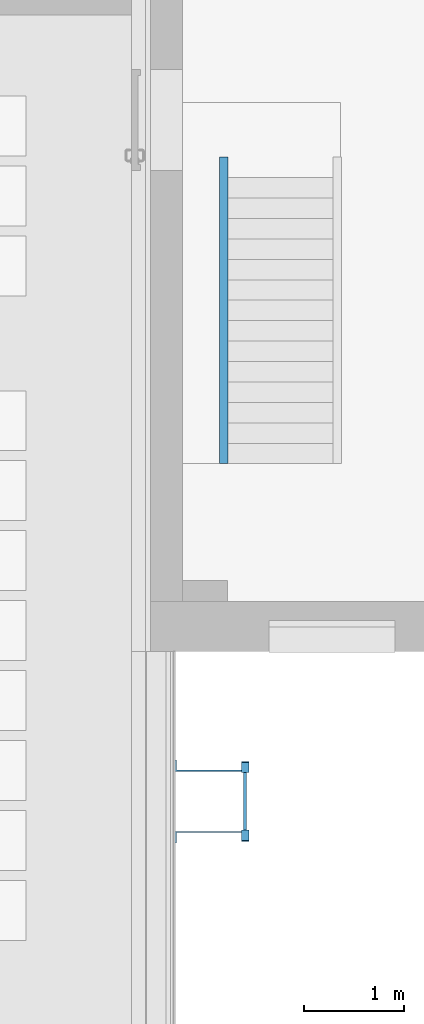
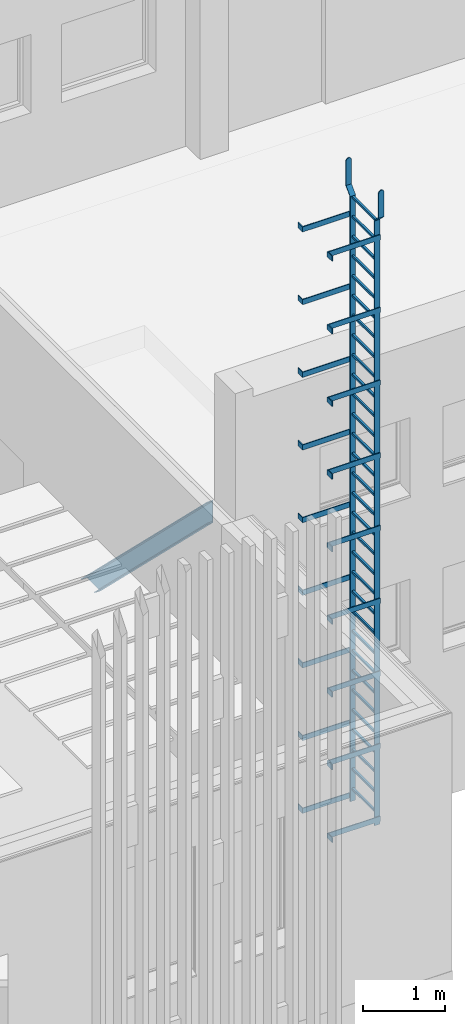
# One storey, part 208 of 301: 1 building element part, 1 discrete accessory, 1 element without a shape of its own.
"""IFC2X3 building model written with IfcOpenShell, lengths in millimetres."""

from ifc_helpers import new_model, entity, si_unit, converted_unit, derived_unit, money_unit, direction, frame, origin_with_axes, place, context, subcontext, project, spatial, faceted_brep, material, type_object, element, aggregate, save


model = new_model("IFC2X3")

# Units and contexts
model_context = context("Model", 3, precision=0.01, world=origin_with_axes(), true_north=direction((0.0, 1.0)))
body_context = subcontext(model_context, "Body", "Model", "MODEL_VIEW")
ifc_project = project(units=[si_unit("LENGTHUNIT", "METRE", prefix="MILLI"), si_unit("AREAUNIT", "SQUARE_METRE"), si_unit("VOLUMEUNIT", "CUBIC_METRE"), converted_unit("PLANEANGLEUNIT", "DEGREE", entity("IfcPlaneAngleMeasure", 0.0174532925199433), si_unit("PLANEANGLEUNIT", "RADIAN"), dimensions=[0, 0, 0, 0, 0, 0, 0]), money_unit("EUR"), converted_unit("TIMEUNIT", "Year", entity("IfcTimeMeasure", 31557600.0), si_unit("TIMEUNIT", "SECOND"), dimensions=[0, 0, 1, 0, 0, 0, 0]), si_unit("MASSUNIT", "GRAM", prefix="KILO"), si_unit("THERMODYNAMICTEMPERATUREUNIT", "DEGREE_CELSIUS"), si_unit("LUMINOUSINTENSITYUNIT", "LUMEN"), si_unit("ENERGYUNIT", "JOULE", prefix="MEGA"), derived_unit("THERMALCONDUCTANCEUNIT", [(si_unit("POWERUNIT", "WATT"), 1), (si_unit("LENGTHUNIT", "METRE"), -1), (si_unit("THERMODYNAMICTEMPERATUREUNIT", "KELVIN"), -1)]), derived_unit("SPECIFICHEATCAPACITYUNIT", [(si_unit("ENERGYUNIT", "JOULE"), 1), (si_unit("MASSUNIT", "GRAM", prefix="KILO"), -1), (si_unit("THERMODYNAMICTEMPERATUREUNIT", "KELVIN"), -1)]), derived_unit("MASSDENSITYUNIT", [(si_unit("MASSUNIT", "GRAM", prefix="KILO"), 1), (si_unit("VOLUMEUNIT", "CUBIC_METRE"), -1)])], contexts=[model_context])

# Site, building, storey
site_placement = place(None, frame((0.0, 0.0, 8650.0), z_axis=(0.0, 0.0, 1.0), x_axis=(1.0, 0.0, 0.0)))
site = spatial("IfcSite", under=ifc_project, at=site_placement, Name="43301:001:0844", CompositionType="ELEMENT")
building_placement = place(site_placement, origin_with_axes())
building = spatial("IfcBuilding", under=site, at=building_placement, Name="Kuressaare Ametikooli tuulikute mehaanikute õppekorpus", CompositionType="ELEMENT")
storey_placement = place(building_placement, origin_with_axes())
storey = spatial("IfcBuildingStorey", under=building, at=storey_placement, Name="1.korrus", CompositionType="ELEMENT", Elevation=0.0)

# Discrete accessory
discrete_accessory_type = type_object("IfcDiscreteAccessoryType", Name="Vertical Ladder 27")
discrete_accessory_placement = place(storey_placement, frame((133461.9464386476, 12015.52507043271, 254.9226562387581), z_axis=(0.0, 0.0, 1.0), x_axis=(0.0, 1.0, 0.0)))
element("IfcDiscreteAccessory", 1, at=discrete_accessory_placement, inside=storey, type_object=discrete_accessory_type, Name="SV püstik", context=body_context, shape_type="Brep", body=[
    faceted_brep([(-312.7, -12.7, 152.4), (-312.7, -738.1, 152.4), (-312.7, -738.1, 228.6), (-312.7, -12.7, 228.6), (-414.3, -12.7, 152.4), (-414.3, 0.0, 152.4), (-300.0, 0.0, 152.4), (-300.0, -738.1, 152.4), (-300.0, -738.1, 228.6), (-300.0, 0.0, 228.6), (-414.3, 0.0, 228.6), (-414.3, -12.7, 228.6)], [[[0, 1, 2, 3]], [[0, 4, 5, 6, 7, 1]], [[1, 7, 8, 2]], [[3, 2, 8, 9, 10, 11]], [[4, 0, 3, 11]], [[5, 4, 11, 10]], [[6, 5, 10, 9]], [[7, 6, 9, 8]]]),
    faceted_brep([(312.7, -12.7, 152.4), (312.7, -12.7, 228.6), (312.7, -738.1, 228.6), (312.7, -738.1, 152.4), (414.3, -12.7, 152.4), (414.3, -12.7, 228.6), (414.3, 0.0, 228.6), (300.0, 0.0, 228.6), (300.0, -738.1, 228.6), (300.0, -738.1, 152.4), (300.0, 0.0, 152.4), (414.3, 0.0, 152.4)], [[[0, 1, 2, 3]], [[4, 5, 1, 0]], [[1, 5, 6, 7, 8, 2]], [[3, 2, 8, 9]], [[0, 3, 9, 10, 11, 4]], [[11, 6, 5, 4]], [[10, 7, 6, 11]], [[9, 8, 7, 10]]]),
    faceted_brep([(-312.7, -12.7, 1228.33337518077), (-312.7, -738.1, 1228.33337518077), (-312.7, -738.1, 1304.53337518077), (-312.7, -12.7, 1304.53337518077), (-414.3, -12.7, 1228.33337518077), (-414.3, 0.0, 1228.33337518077), (-300.0, 0.0, 1228.33337518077), (-300.0, -738.1, 1228.33337518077), (-300.0, -738.1, 1304.53337518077), (-300.0, 0.0, 1304.53337518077), (-414.3, 0.0, 1304.53337518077), (-414.3, -12.7, 1304.53337518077)], [[[0, 1, 2, 3]], [[0, 4, 5, 6, 7, 1]], [[1, 7, 8, 2]], [[3, 2, 8, 9, 10, 11]], [[4, 0, 3, 11]], [[5, 4, 11, 10]], [[6, 5, 10, 9]], [[7, 6, 9, 8]]]),
    faceted_brep([(312.7, -12.7, 1228.33337518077), (312.7, -12.7, 1304.53337518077), (312.7, -738.1, 1304.53337518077), (312.7, -738.1, 1228.33337518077), (414.3, -12.7, 1228.33337518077), (414.3, -12.7, 1304.53337518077), (414.3, 0.0, 1304.53337518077), (300.0, 0.0, 1304.53337518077), (300.0, -738.1, 1304.53337518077), (300.0, -738.1, 1228.33337518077), (300.0, 0.0, 1228.33337518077), (414.3, 0.0, 1228.33337518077)], [[[0, 1, 2, 3]], [[4, 5, 1, 0]], [[1, 5, 6, 7, 8, 2]], [[3, 2, 8, 9]], [[0, 3, 9, 10, 11, 4]], [[11, 6, 5, 4]], [[10, 7, 6, 11]], [[9, 8, 7, 10]]]),
    faceted_brep([(-312.7, -12.7, 2304.26675036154), (-312.7, -738.1, 2304.26675036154), (-312.7, -738.1, 2380.46675036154), (-312.7, -12.7, 2380.46675036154), (-414.3, -12.7, 2304.26675036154), (-414.3, 0.0, 2304.26675036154), (-300.0, 0.0, 2304.26675036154), (-300.0, -738.1, 2304.26675036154), (-300.0, -738.1, 2380.46675036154), (-300.0, 0.0, 2380.46675036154), (-414.3, 0.0, 2380.46675036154), (-414.3, -12.7, 2380.46675036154)], [[[0, 1, 2, 3]], [[0, 4, 5, 6, 7, 1]], [[1, 7, 8, 2]], [[3, 2, 8, 9, 10, 11]], [[4, 0, 3, 11]], [[5, 4, 11, 10]], [[6, 5, 10, 9]], [[7, 6, 9, 8]]]),
    faceted_brep([(312.7, -12.7, 2304.26675036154), (312.7, -12.7, 2380.46675036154), (312.7, -738.1, 2380.46675036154), (312.7, -738.1, 2304.26675036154), (414.3, -12.7, 2304.26675036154), (414.3, -12.7, 2380.46675036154), (414.3, 0.0, 2380.46675036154), (300.0, 0.0, 2380.46675036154), (300.0, -738.1, 2380.46675036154), (300.0, -738.1, 2304.26675036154), (300.0, 0.0, 2304.26675036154), (414.3, 0.0, 2304.26675036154)], [[[0, 1, 2, 3]], [[4, 5, 1, 0]], [[1, 5, 6, 7, 8, 2]], [[3, 2, 8, 9]], [[0, 3, 9, 10, 11, 4]], [[11, 6, 5, 4]], [[10, 7, 6, 11]], [[9, 8, 7, 10]]]),
    faceted_brep([(-312.7, -12.7, 3380.20012554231), (-312.7, -738.1, 3380.20012554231), (-312.7, -738.1, 3456.40012554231), (-312.7, -12.7, 3456.40012554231), (-414.3, -12.7, 3380.20012554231), (-414.3, 0.0, 3380.20012554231), (-300.0, 0.0, 3380.20012554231), (-300.0, -738.1, 3380.20012554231), (-300.0, -738.1, 3456.40012554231), (-300.0, 0.0, 3456.40012554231), (-414.3, 0.0, 3456.40012554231), (-414.3, -12.7, 3456.40012554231)], [[[0, 1, 2, 3]], [[0, 4, 5, 6, 7, 1]], [[1, 7, 8, 2]], [[3, 2, 8, 9, 10, 11]], [[4, 0, 3, 11]], [[5, 4, 11, 10]], [[6, 5, 10, 9]], [[7, 6, 9, 8]]]),
    faceted_brep([(312.7, -12.7, 3380.20012554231), (312.7, -12.7, 3456.40012554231), (312.7, -738.1, 3456.40012554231), (312.7, -738.1, 3380.20012554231), (414.3, -12.7, 3380.20012554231), (414.3, -12.7, 3456.40012554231), (414.3, 0.0, 3456.40012554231), (300.0, 0.0, 3456.40012554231), (300.0, -738.1, 3456.40012554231), (300.0, -738.1, 3380.20012554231), (300.0, 0.0, 3380.20012554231), (414.3, 0.0, 3380.20012554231)], [[[0, 1, 2, 3]], [[4, 5, 1, 0]], [[1, 5, 6, 7, 8, 2]], [[3, 2, 8, 9]], [[0, 3, 9, 10, 11, 4]], [[11, 6, 5, 4]], [[10, 7, 6, 11]], [[9, 8, 7, 10]]]),
    faceted_brep([(-312.7, -12.7, 4456.13350072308), (-312.7, -738.1, 4456.13350072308), (-312.7, -738.1, 4532.33350072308), (-312.7, -12.7, 4532.33350072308), (-414.3, -12.7, 4456.13350072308), (-414.3, 0.0, 4456.13350072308), (-300.0, 0.0, 4456.13350072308), (-300.0, -738.1, 4456.13350072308), (-300.0, -738.1, 4532.33350072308), (-300.0, 0.0, 4532.33350072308), (-414.3, 0.0, 4532.33350072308), (-414.3, -12.7, 4532.33350072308)], [[[0, 1, 2, 3]], [[0, 4, 5, 6, 7, 1]], [[1, 7, 8, 2]], [[3, 2, 8, 9, 10, 11]], [[4, 0, 3, 11]], [[5, 4, 11, 10]], [[6, 5, 10, 9]], [[7, 6, 9, 8]]]),
    faceted_brep([(312.7, -12.7, 4456.13350072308), (312.7, -12.7, 4532.33350072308), (312.7, -738.1, 4532.33350072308), (312.7, -738.1, 4456.13350072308), (414.3, -12.7, 4456.13350072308), (414.3, -12.7, 4532.33350072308), (414.3, 0.0, 4532.33350072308), (300.0, 0.0, 4532.33350072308), (300.0, -738.1, 4532.33350072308), (300.0, -738.1, 4456.13350072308), (300.0, 0.0, 4456.13350072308), (414.3, 0.0, 4456.13350072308)], [[[0, 1, 2, 3]], [[4, 5, 1, 0]], [[1, 5, 6, 7, 8, 2]], [[3, 2, 8, 9]], [[0, 3, 9, 10, 11, 4]], [[11, 6, 5, 4]], [[10, 7, 6, 11]], [[9, 8, 7, 10]]]),
    faceted_brep([(-312.7, -12.7, 5532.06687590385), (-312.7, -738.1, 5532.06687590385), (-312.7, -738.1, 5608.266875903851), (-312.7, -12.7, 5608.266875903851), (-414.3, -12.7, 5532.06687590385), (-414.3, 0.0, 5532.06687590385), (-300.0, 0.0, 5532.06687590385), (-300.0, -738.1, 5532.06687590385), (-300.0, -738.1, 5608.266875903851), (-300.0, 0.0, 5608.266875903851), (-414.3, 0.0, 5608.266875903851), (-414.3, -12.7, 5608.266875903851)], [[[0, 1, 2, 3]], [[0, 4, 5, 6, 7, 1]], [[1, 7, 8, 2]], [[3, 2, 8, 9, 10, 11]], [[4, 0, 3, 11]], [[5, 4, 11, 10]], [[6, 5, 10, 9]], [[7, 6, 9, 8]]]),
    faceted_brep([(312.7, -12.7, 5532.06687590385), (312.7, -12.7, 5608.266875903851), (312.7, -738.1, 5608.266875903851), (312.7, -738.1, 5532.06687590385), (414.3, -12.7, 5532.06687590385), (414.3, -12.7, 5608.266875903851), (414.3, 0.0, 5608.266875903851), (300.0, 0.0, 5608.266875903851), (300.0, -738.1, 5608.266875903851), (300.0, -738.1, 5532.06687590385), (300.0, 0.0, 5532.06687590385), (414.3, 0.0, 5532.06687590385)], [[[0, 1, 2, 3]], [[4, 5, 1, 0]], [[1, 5, 6, 7, 8, 2]], [[3, 2, 8, 9]], [[0, 3, 9, 10, 11, 4]], [[11, 6, 5, 4]], [[10, 7, 6, 11]], [[9, 8, 7, 10]]]),
    faceted_brep([(-312.7, -12.7, 6608.000251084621), (-312.7, -738.1, 6608.000251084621), (-312.7, -738.1, 6684.200251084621), (-312.7, -12.7, 6684.200251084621), (-414.3, -12.7, 6608.000251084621), (-414.3, 0.0, 6608.000251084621), (-300.0, 0.0, 6608.000251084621), (-300.0, -738.1, 6608.000251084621), (-300.0, -738.1, 6684.200251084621), (-300.0, 0.0, 6684.200251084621), (-414.3, 0.0, 6684.200251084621), (-414.3, -12.7, 6684.200251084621)], [[[0, 1, 2, 3]], [[0, 4, 5, 6, 7, 1]], [[1, 7, 8, 2]], [[3, 2, 8, 9, 10, 11]], [[4, 0, 3, 11]], [[5, 4, 11, 10]], [[6, 5, 10, 9]], [[7, 6, 9, 8]]]),
    faceted_brep([(312.7, -12.7, 6608.000251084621), (312.7, -12.7, 6684.200251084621), (312.7, -738.1, 6684.200251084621), (312.7, -738.1, 6608.000251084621), (414.3, -12.7, 6608.000251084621), (414.3, -12.7, 6684.200251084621), (414.3, 0.0, 6684.200251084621), (300.0, 0.0, 6684.200251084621), (300.0, -738.1, 6684.200251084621), (300.0, -738.1, 6608.000251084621), (300.0, 0.0, 6608.000251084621), (414.3, 0.0, 6608.000251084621)], [[[0, 1, 2, 3]], [[4, 5, 1, 0]], [[1, 5, 6, 7, 8, 2]], [[3, 2, 8, 9]], [[0, 3, 9, 10, 11, 4]], [[11, 6, 5, 4]], [[10, 7, 6, 11]], [[9, 8, 7, 10]]]),
    faceted_brep([(-312.7, -12.7, 7683.933626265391), (-312.7, -738.1, 7683.933626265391), (-312.7, -738.1, 7760.13362626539), (-312.7, -12.7, 7760.13362626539), (-414.3, -12.7, 7683.933626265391), (-414.3, 0.0, 7683.933626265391), (-300.0, 0.0, 7683.933626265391), (-300.0, -738.1, 7683.933626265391), (-300.0, -738.1, 7760.13362626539), (-300.0, 0.0, 7760.13362626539), (-414.3, 0.0, 7760.13362626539), (-414.3, -12.7, 7760.13362626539)], [[[0, 1, 2, 3]], [[0, 4, 5, 6, 7, 1]], [[1, 7, 8, 2]], [[3, 2, 8, 9, 10, 11]], [[4, 0, 3, 11]], [[5, 4, 11, 10]], [[6, 5, 10, 9]], [[7, 6, 9, 8]]]),
    faceted_brep([(312.7, -12.7, 7683.933626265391), (312.7, -12.7, 7760.13362626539), (312.7, -738.1, 7760.13362626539), (312.7, -738.1, 7683.933626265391), (414.3, -12.7, 7683.933626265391), (414.3, -12.7, 7760.13362626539), (414.3, 0.0, 7760.13362626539), (300.0, 0.0, 7760.13362626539), (300.0, -738.1, 7760.13362626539), (300.0, -738.1, 7683.933626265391), (300.0, 0.0, 7683.933626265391), (414.3, 0.0, 7683.933626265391)], [[[0, 1, 2, 3]], [[4, 5, 1, 0]], [[1, 5, 6, 7, 8, 2]], [[3, 2, 8, 9]], [[0, 3, 9, 10, 11, 4]], [[11, 6, 5, 4]], [[10, 7, 6, 11]], [[9, 8, 7, 10]]]),
    faceted_brep([(-312.7, -12.7, 8759.86700144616), (-312.7, -738.1, 8759.86700144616), (-312.7, -738.1, 8836.067001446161), (-312.7, -12.7, 8836.067001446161), (-414.3, -12.7, 8759.86700144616), (-414.3, 0.0, 8759.86700144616), (-300.0, 0.0, 8759.86700144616), (-300.0, -738.1, 8759.86700144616), (-300.0, -738.1, 8836.067001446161), (-300.0, 0.0, 8836.067001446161), (-414.3, 0.0, 8836.067001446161), (-414.3, -12.7, 8836.067001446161)], [[[0, 1, 2, 3]], [[0, 4, 5, 6, 7, 1]], [[1, 7, 8, 2]], [[3, 2, 8, 9, 10, 11]], [[4, 0, 3, 11]], [[5, 4, 11, 10]], [[6, 5, 10, 9]], [[7, 6, 9, 8]]]),
    faceted_brep([(312.7, -12.7, 8759.86700144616), (312.7, -12.7, 8836.067001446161), (312.7, -738.1, 8836.067001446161), (312.7, -738.1, 8759.86700144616), (414.3, -12.7, 8759.86700144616), (414.3, -12.7, 8836.067001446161), (414.3, 0.0, 8836.067001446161), (300.0, 0.0, 8836.067001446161), (300.0, -738.1, 8836.067001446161), (300.0, -738.1, 8759.86700144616), (300.0, 0.0, 8759.86700144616), (414.3, 0.0, 8759.86700144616)], [[[0, 1, 2, 3]], [[4, 5, 1, 0]], [[1, 5, 6, 7, 8, 2]], [[3, 2, 8, 9]], [[0, 3, 9, 10, 11, 4]], [[11, 6, 5, 4]], [[10, 7, 6, 11]], [[9, 8, 7, 10]]]),
    faceted_brep([(-287.3, -738.1, 101.6), (-287.3, -661.9, 101.6), (-287.3, -661.9, 9061.467001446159), (-287.3, -738.1, 9061.467001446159), (-300.0, -738.1, 101.6), (-300.0, -661.9, 101.6), (-300.0, -661.9, 9056.206489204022), (-401.6, -661.9, 9157.80648920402), (-401.6, -661.9, 9523.367001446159), (-388.9, -661.9, 9523.367001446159), (-388.9, -661.9, 9163.06700144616), (-388.9, -738.1, 9163.06700144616), (-388.9, -738.1, 9523.367001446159), (-401.6, -738.1, 9523.367001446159), (-401.6, -738.1, 9157.80648920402), (-300.0, -738.1, 9056.206489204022)], [[[0, 1, 2, 3]], [[0, 4, 5, 1]], [[1, 5, 6, 7, 8, 9, 10, 2]], [[3, 2, 10, 11]], [[4, 0, 3, 11, 12, 13, 14, 15]], [[5, 4, 15, 6]], [[6, 15, 14, 7]], [[7, 14, 13, 8]], [[12, 9, 8, 13]], [[11, 10, 9, 12]]]),
    faceted_brep([(-401.6, -661.9, 9523.367001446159), (-401.6, -664.8001898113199, 9537.94724021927), (-388.9, -664.8001898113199, 9537.94724021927), (-388.9, -661.9, 9523.367001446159), (-401.6, -738.1, 9523.367001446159), (-401.6, -735.19981018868, 9537.94724021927), (-401.6, -726.9407683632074, 9550.307769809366), (-401.6, -714.58023877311, 9558.566811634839), (-401.6, -700.0, 9561.467001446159), (-401.6, -685.41976122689, 9558.566811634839), (-401.6, -673.0592316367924, 9550.307769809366), (-388.9, -673.0592316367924, 9550.307769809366), (-388.9, -685.41976122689, 9558.566811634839), (-388.9, -700.0, 9561.467001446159), (-388.9, -714.58023877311, 9558.566811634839), (-388.9, -726.9407683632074, 9550.307769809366), (-388.9, -735.19981018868, 9537.94724021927), (-388.9, -738.1, 9523.367001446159)], [[[0, 1, 2, 3]], [[0, 4, 5, 6, 7, 8, 9, 10, 1]], [[1, 10, 11, 2]], [[3, 2, 11, 12, 13, 14, 15, 16, 17]], [[4, 0, 3, 17]], [[5, 4, 17, 16]], [[6, 5, 16, 15]], [[7, 6, 15, 14]], [[8, 7, 14, 13]], [[9, 8, 13, 12]], [[10, 9, 12, 11]]]),
    faceted_brep([(287.3, -738.1, 101.6), (287.3, -738.1, 9061.467001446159), (287.3, -661.9, 9061.467001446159), (287.3, -661.9, 101.6), (300.0, -738.1, 101.6), (300.0, -738.1, 9056.206489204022), (401.6, -738.1, 9157.80648920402), (401.6, -738.1, 9523.367001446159), (388.9, -738.1, 9523.367001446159), (388.9, -738.1, 9163.06700144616), (388.9, -661.9, 9163.06700144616), (388.9, -661.9, 9523.367001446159), (401.6, -661.9, 9523.367001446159), (401.6, -661.9, 9157.80648920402), (300.0, -661.9, 9056.206489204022), (300.0, -661.9, 101.6)], [[[0, 1, 2, 3]], [[4, 5, 6, 7, 8, 9, 1, 0]], [[1, 9, 10, 2]], [[3, 2, 10, 11, 12, 13, 14, 15]], [[0, 3, 15, 4]], [[15, 14, 5, 4]], [[14, 13, 6, 5]], [[13, 12, 7, 6]], [[8, 7, 12, 11]], [[9, 8, 11, 10]]]),
    faceted_brep([(401.6, -661.9, 9523.367001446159), (388.9, -661.9, 9523.367001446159), (388.9, -664.8001898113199, 9537.94724021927), (401.6, -664.8001898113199, 9537.94724021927), (401.6, -738.1, 9523.367001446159), (388.9, -738.1, 9523.367001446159), (388.9, -735.19981018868, 9537.94724021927), (388.9, -726.9407683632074, 9550.307769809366), (388.9, -714.58023877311, 9558.566811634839), (388.9, -700.0, 9561.467001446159), (388.9, -685.41976122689, 9558.566811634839), (388.9, -673.0592316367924, 9550.307769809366), (401.6, -673.0592316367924, 9550.307769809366), (401.6, -685.41976122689, 9558.566811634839), (401.6, -700.0, 9561.467001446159), (401.6, -714.58023877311, 9558.566811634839), (401.6, -726.9407683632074, 9550.307769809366), (401.6, -735.19981018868, 9537.94724021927)], [[[0, 1, 2, 3]], [[4, 5, 1, 0]], [[1, 5, 6, 7, 8, 9, 10, 11, 2]], [[3, 2, 11, 12]], [[0, 3, 12, 13, 14, 15, 16, 17, 4]], [[17, 6, 5, 4]], [[16, 7, 6, 17]], [[15, 8, 7, 16]], [[14, 9, 8, 15]], [[13, 10, 9, 14]], [[12, 11, 10, 13]]]),
    faceted_brep([(287.3, -715.0, 270.0), (-287.3, -715.0, 270.0), (-287.3, -684.9999999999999, 270.0), (287.3, -684.9999999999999, 270.0), (287.3, -715.0, 300.0000000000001), (-287.3, -715.0, 300.0000000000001), (-287.3, -684.9999999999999, 300.0000000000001), (287.3, -684.9999999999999, 300.0000000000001)], [[[0, 1, 2, 3]], [[1, 0, 4, 5]], [[2, 1, 5, 6]], [[3, 2, 6, 7]], [[0, 3, 7, 4]], [[5, 4, 7, 6]]]),
    faceted_brep([(287.3, -715.0, 562.0489000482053), (-287.3, -715.0, 562.0489000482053), (-287.3, -684.9999999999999, 562.0489000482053), (287.3, -684.9999999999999, 562.0489000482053), (287.3, -715.0, 592.0489000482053), (-287.3, -715.0, 592.0489000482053), (-287.3, -684.9999999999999, 592.0489000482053), (287.3, -684.9999999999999, 592.0489000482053)], [[[0, 1, 2, 3]], [[1, 0, 4, 5]], [[2, 1, 5, 6]], [[3, 2, 6, 7]], [[0, 3, 7, 4]], [[5, 4, 7, 6]]]),
    faceted_brep([(287.3, -715.0, 854.0978000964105), (-287.3, -715.0, 854.0978000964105), (-287.3, -684.9999999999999, 854.0978000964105), (287.3, -684.9999999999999, 854.0978000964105), (287.3, -715.0, 884.0978000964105), (-287.3, -715.0, 884.0978000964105), (-287.3, -684.9999999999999, 884.0978000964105), (287.3, -684.9999999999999, 884.0978000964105)], [[[0, 1, 2, 3]], [[1, 0, 4, 5]], [[2, 1, 5, 6]], [[3, 2, 6, 7]], [[0, 3, 7, 4]], [[5, 4, 7, 6]]]),
    faceted_brep([(287.3, -715.0, 1146.146700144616), (-287.3, -715.0, 1146.146700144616), (-287.3, -684.9999999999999, 1146.146700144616), (287.3, -684.9999999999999, 1146.146700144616), (287.3, -715.0, 1176.146700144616), (-287.3, -715.0, 1176.146700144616), (-287.3, -684.9999999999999, 1176.146700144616), (287.3, -684.9999999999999, 1176.146700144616)], [[[0, 1, 2, 3]], [[1, 0, 4, 5]], [[2, 1, 5, 6]], [[3, 2, 6, 7]], [[0, 3, 7, 4]], [[5, 4, 7, 6]]]),
    faceted_brep([(287.3, -715.0, 1438.195600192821), (-287.3, -715.0, 1438.195600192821), (-287.3, -684.9999999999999, 1438.195600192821), (287.3, -684.9999999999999, 1438.195600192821), (287.3, -715.0, 1468.195600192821), (-287.3, -715.0, 1468.195600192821), (-287.3, -684.9999999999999, 1468.195600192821), (287.3, -684.9999999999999, 1468.195600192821)], [[[0, 1, 2, 3]], [[1, 0, 4, 5]], [[2, 1, 5, 6]], [[3, 2, 6, 7]], [[0, 3, 7, 4]], [[5, 4, 7, 6]]]),
    faceted_brep([(287.3, -715.0, 1730.244500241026), (-287.3, -715.0, 1730.244500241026), (-287.3, -684.9999999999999, 1730.244500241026), (287.3, -684.9999999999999, 1730.244500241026), (287.3, -715.0, 1760.244500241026), (-287.3, -715.0, 1760.244500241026), (-287.3, -684.9999999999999, 1760.244500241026), (287.3, -684.9999999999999, 1760.244500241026)], [[[0, 1, 2, 3]], [[1, 0, 4, 5]], [[2, 1, 5, 6]], [[3, 2, 6, 7]], [[0, 3, 7, 4]], [[5, 4, 7, 6]]]),
    faceted_brep([(287.3, -715.0, 2022.293400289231), (-287.3, -715.0, 2022.293400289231), (-287.3, -684.9999999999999, 2022.293400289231), (287.3, -684.9999999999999, 2022.293400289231), (287.3, -715.0, 2052.293400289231), (-287.3, -715.0, 2052.293400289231), (-287.3, -684.9999999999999, 2052.293400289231), (287.3, -684.9999999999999, 2052.293400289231)], [[[0, 1, 2, 3]], [[1, 0, 4, 5]], [[2, 1, 5, 6]], [[3, 2, 6, 7]], [[0, 3, 7, 4]], [[5, 4, 7, 6]]]),
    faceted_brep([(287.3, -715.0, 2314.342300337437), (-287.3, -715.0, 2314.342300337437), (-287.3, -684.9999999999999, 2314.342300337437), (287.3, -684.9999999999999, 2314.342300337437), (287.3, -715.0, 2344.342300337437), (-287.3, -715.0, 2344.342300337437), (-287.3, -684.9999999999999, 2344.342300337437), (287.3, -684.9999999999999, 2344.342300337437)], [[[0, 1, 2, 3]], [[1, 0, 4, 5]], [[2, 1, 5, 6]], [[3, 2, 6, 7]], [[0, 3, 7, 4]], [[5, 4, 7, 6]]]),
    faceted_brep([(287.3, -715.0, 2606.391200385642), (-287.3, -715.0, 2606.391200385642), (-287.3, -684.9999999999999, 2606.391200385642), (287.3, -684.9999999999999, 2606.391200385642), (287.3, -715.0, 2636.391200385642), (-287.3, -715.0, 2636.391200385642), (-287.3, -684.9999999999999, 2636.391200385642), (287.3, -684.9999999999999, 2636.391200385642)], [[[0, 1, 2, 3]], [[1, 0, 4, 5]], [[2, 1, 5, 6]], [[3, 2, 6, 7]], [[0, 3, 7, 4]], [[5, 4, 7, 6]]]),
    faceted_brep([(287.3, -715.0, 2898.440100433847), (-287.3, -715.0, 2898.440100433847), (-287.3, -684.9999999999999, 2898.440100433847), (287.3, -684.9999999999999, 2898.440100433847), (287.3, -715.0, 2928.440100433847), (-287.3, -715.0, 2928.440100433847), (-287.3, -684.9999999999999, 2928.440100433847), (287.3, -684.9999999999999, 2928.440100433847)], [[[0, 1, 2, 3]], [[1, 0, 4, 5]], [[2, 1, 5, 6]], [[3, 2, 6, 7]], [[0, 3, 7, 4]], [[5, 4, 7, 6]]]),
    faceted_brep([(287.3, -715.0, 3190.489000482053), (-287.3, -715.0, 3190.489000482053), (-287.3, -684.9999999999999, 3190.489000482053), (287.3, -684.9999999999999, 3190.489000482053), (287.3, -715.0, 3220.489000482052), (-287.3, -715.0, 3220.489000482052), (-287.3, -684.9999999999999, 3220.489000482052), (287.3, -684.9999999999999, 3220.489000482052)], [[[0, 1, 2, 3]], [[1, 0, 4, 5]], [[2, 1, 5, 6]], [[3, 2, 6, 7]], [[0, 3, 7, 4]], [[5, 4, 7, 6]]]),
    faceted_brep([(287.3, -715.0, 3482.537900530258), (-287.3, -715.0, 3482.537900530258), (-287.3, -684.9999999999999, 3482.537900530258), (287.3, -684.9999999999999, 3482.537900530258), (287.3, -715.0, 3512.537900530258), (-287.3, -715.0, 3512.537900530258), (-287.3, -684.9999999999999, 3512.537900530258), (287.3, -684.9999999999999, 3512.537900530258)], [[[0, 1, 2, 3]], [[1, 0, 4, 5]], [[2, 1, 5, 6]], [[3, 2, 6, 7]], [[0, 3, 7, 4]], [[5, 4, 7, 6]]]),
    faceted_brep([(287.3, -715.0, 3774.586800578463), (-287.3, -715.0, 3774.586800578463), (-287.3, -684.9999999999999, 3774.586800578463), (287.3, -684.9999999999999, 3774.586800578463), (287.3, -715.0, 3804.586800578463), (-287.3, -715.0, 3804.586800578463), (-287.3, -684.9999999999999, 3804.586800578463), (287.3, -684.9999999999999, 3804.586800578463)], [[[0, 1, 2, 3]], [[1, 0, 4, 5]], [[2, 1, 5, 6]], [[3, 2, 6, 7]], [[0, 3, 7, 4]], [[5, 4, 7, 6]]]),
    faceted_brep([(287.3, -715.0, 4066.635700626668), (-287.3, -715.0, 4066.635700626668), (-287.3, -684.9999999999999, 4066.635700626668), (287.3, -684.9999999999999, 4066.635700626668), (287.3, -715.0, 4096.635700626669), (-287.3, -715.0, 4096.635700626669), (-287.3, -684.9999999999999, 4096.635700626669), (287.3, -684.9999999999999, 4096.635700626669)], [[[0, 1, 2, 3]], [[1, 0, 4, 5]], [[2, 1, 5, 6]], [[3, 2, 6, 7]], [[0, 3, 7, 4]], [[5, 4, 7, 6]]]),
    faceted_brep([(287.3, -715.0, 4358.684600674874), (-287.3, -715.0, 4358.684600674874), (-287.3, -684.9999999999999, 4358.684600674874), (287.3, -684.9999999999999, 4358.684600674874), (287.3, -715.0, 4388.684600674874), (-287.3, -715.0, 4388.684600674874), (-287.3, -684.9999999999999, 4388.684600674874), (287.3, -684.9999999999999, 4388.684600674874)], [[[0, 1, 2, 3]], [[1, 0, 4, 5]], [[2, 1, 5, 6]], [[3, 2, 6, 7]], [[0, 3, 7, 4]], [[5, 4, 7, 6]]]),
    faceted_brep([(287.3, -715.0, 4650.733500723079), (-287.3, -715.0, 4650.733500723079), (-287.3, -684.9999999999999, 4650.733500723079), (287.3, -684.9999999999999, 4650.733500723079), (287.3, -715.0, 4680.733500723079), (-287.3, -715.0, 4680.733500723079), (-287.3, -684.9999999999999, 4680.733500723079), (287.3, -684.9999999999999, 4680.733500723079)], [[[0, 1, 2, 3]], [[1, 0, 4, 5]], [[2, 1, 5, 6]], [[3, 2, 6, 7]], [[0, 3, 7, 4]], [[5, 4, 7, 6]]]),
    faceted_brep([(287.3, -715.0, 4942.782400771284), (-287.3, -715.0, 4942.782400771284), (-287.3, -684.9999999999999, 4942.782400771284), (287.3, -684.9999999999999, 4942.782400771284), (287.3, -715.0, 4972.782400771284), (-287.3, -715.0, 4972.782400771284), (-287.3, -684.9999999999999, 4972.782400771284), (287.3, -684.9999999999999, 4972.782400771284)], [[[0, 1, 2, 3]], [[1, 0, 4, 5]], [[2, 1, 5, 6]], [[3, 2, 6, 7]], [[0, 3, 7, 4]], [[5, 4, 7, 6]]]),
    faceted_brep([(287.3, -715.0, 5234.83130081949), (-287.3, -715.0, 5234.83130081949), (-287.3, -684.9999999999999, 5234.83130081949), (287.3, -684.9999999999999, 5234.83130081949), (287.3, -715.0, 5264.83130081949), (-287.3, -715.0, 5264.83130081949), (-287.3, -684.9999999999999, 5264.83130081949), (287.3, -684.9999999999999, 5264.83130081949)], [[[0, 1, 2, 3]], [[1, 0, 4, 5]], [[2, 1, 5, 6]], [[3, 2, 6, 7]], [[0, 3, 7, 4]], [[5, 4, 7, 6]]]),
    faceted_brep([(287.3, -715.0, 5526.880200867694), (-287.3, -715.0, 5526.880200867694), (-287.3, -684.9999999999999, 5526.880200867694), (287.3, -684.9999999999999, 5526.880200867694), (287.3, -715.0, 5556.880200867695), (-287.3, -715.0, 5556.880200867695), (-287.3, -684.9999999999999, 5556.880200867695), (287.3, -684.9999999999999, 5556.880200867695)], [[[0, 1, 2, 3]], [[1, 0, 4, 5]], [[2, 1, 5, 6]], [[3, 2, 6, 7]], [[0, 3, 7, 4]], [[5, 4, 7, 6]]]),
    faceted_brep([(287.3, -715.0, 5818.929100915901), (-287.3, -715.0, 5818.929100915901), (-287.3, -684.9999999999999, 5818.929100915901), (287.3, -684.9999999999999, 5818.929100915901), (287.3, -715.0, 5848.929100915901), (-287.3, -715.0, 5848.929100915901), (-287.3, -684.9999999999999, 5848.929100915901), (287.3, -684.9999999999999, 5848.929100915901)], [[[0, 1, 2, 3]], [[1, 0, 4, 5]], [[2, 1, 5, 6]], [[3, 2, 6, 7]], [[0, 3, 7, 4]], [[5, 4, 7, 6]]]),
    faceted_brep([(287.3, -715.0, 6110.978000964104), (-287.3, -715.0, 6110.978000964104), (-287.3, -684.9999999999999, 6110.978000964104), (287.3, -684.9999999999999, 6110.978000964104), (287.3, -715.0, 6140.978000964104), (-287.3, -715.0, 6140.978000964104), (-287.3, -684.9999999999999, 6140.978000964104), (287.3, -684.9999999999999, 6140.978000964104)], [[[0, 1, 2, 3]], [[1, 0, 4, 5]], [[2, 1, 5, 6]], [[3, 2, 6, 7]], [[0, 3, 7, 4]], [[5, 4, 7, 6]]]),
    faceted_brep([(287.3, -715.0, 6403.02690101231), (-287.3, -715.0, 6403.02690101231), (-287.3, -684.9999999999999, 6403.02690101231), (287.3, -684.9999999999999, 6403.02690101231), (287.3, -715.0, 6433.026901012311), (-287.3, -715.0, 6433.026901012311), (-287.3, -684.9999999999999, 6433.026901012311), (287.3, -684.9999999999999, 6433.026901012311)], [[[0, 1, 2, 3]], [[1, 0, 4, 5]], [[2, 1, 5, 6]], [[3, 2, 6, 7]], [[0, 3, 7, 4]], [[5, 4, 7, 6]]]),
    faceted_brep([(287.3, -715.0, 6695.075801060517), (-287.3, -715.0, 6695.075801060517), (-287.3, -684.9999999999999, 6695.075801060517), (287.3, -684.9999999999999, 6695.075801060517), (287.3, -715.0, 6725.075801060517), (-287.3, -715.0, 6725.075801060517), (-287.3, -684.9999999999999, 6725.075801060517), (287.3, -684.9999999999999, 6725.075801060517)], [[[0, 1, 2, 3]], [[1, 0, 4, 5]], [[2, 1, 5, 6]], [[3, 2, 6, 7]], [[0, 3, 7, 4]], [[5, 4, 7, 6]]]),
    faceted_brep([(287.3, -715.0, 6987.124701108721), (-287.3, -715.0, 6987.124701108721), (-287.3, -684.9999999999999, 6987.124701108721), (287.3, -684.9999999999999, 6987.124701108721), (287.3, -715.0, 7017.124701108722), (-287.3, -715.0, 7017.124701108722), (-287.3, -684.9999999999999, 7017.124701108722), (287.3, -684.9999999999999, 7017.124701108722)], [[[0, 1, 2, 3]], [[1, 0, 4, 5]], [[2, 1, 5, 6]], [[3, 2, 6, 7]], [[0, 3, 7, 4]], [[5, 4, 7, 6]]]),
    faceted_brep([(287.3, -715.0, 7279.173601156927), (-287.3, -715.0, 7279.173601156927), (-287.3, -684.9999999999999, 7279.173601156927), (287.3, -684.9999999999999, 7279.173601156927), (287.3, -715.0, 7309.173601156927), (-287.3, -715.0, 7309.173601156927), (-287.3, -684.9999999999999, 7309.173601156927), (287.3, -684.9999999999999, 7309.173601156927)], [[[0, 1, 2, 3]], [[1, 0, 4, 5]], [[2, 1, 5, 6]], [[3, 2, 6, 7]], [[0, 3, 7, 4]], [[5, 4, 7, 6]]]),
    faceted_brep([(287.3, -715.0, 7571.222501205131), (-287.3, -715.0, 7571.222501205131), (-287.3, -684.9999999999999, 7571.222501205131), (287.3, -684.9999999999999, 7571.222501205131), (287.3, -715.0, 7601.222501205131), (-287.3, -715.0, 7601.222501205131), (-287.3, -684.9999999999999, 7601.222501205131), (287.3, -684.9999999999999, 7601.222501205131)], [[[0, 1, 2, 3]], [[1, 0, 4, 5]], [[2, 1, 5, 6]], [[3, 2, 6, 7]], [[0, 3, 7, 4]], [[5, 4, 7, 6]]]),
    faceted_brep([(287.3, -715.0, 7863.271401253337), (-287.3, -715.0, 7863.271401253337), (-287.3, -684.9999999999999, 7863.271401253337), (287.3, -684.9999999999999, 7863.271401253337), (287.3, -715.0, 7893.271401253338), (-287.3, -715.0, 7893.271401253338), (-287.3, -684.9999999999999, 7893.271401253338), (287.3, -684.9999999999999, 7893.271401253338)], [[[0, 1, 2, 3]], [[1, 0, 4, 5]], [[2, 1, 5, 6]], [[3, 2, 6, 7]], [[0, 3, 7, 4]], [[5, 4, 7, 6]]]),
    faceted_brep([(287.3, -715.0, 8155.320301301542), (-287.3, -715.0, 8155.320301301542), (-287.3, -684.9999999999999, 8155.320301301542), (287.3, -684.9999999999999, 8155.320301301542), (287.3, -715.0, 8185.320301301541), (-287.3, -715.0, 8185.320301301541), (-287.3, -684.9999999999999, 8185.320301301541), (287.3, -684.9999999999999, 8185.320301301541)], [[[0, 1, 2, 3]], [[1, 0, 4, 5]], [[2, 1, 5, 6]], [[3, 2, 6, 7]], [[0, 3, 7, 4]], [[5, 4, 7, 6]]]),
    faceted_brep([(287.3, -715.0, 8447.369201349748), (-287.3, -715.0, 8447.369201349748), (-287.3, -684.9999999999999, 8447.369201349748), (287.3, -684.9999999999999, 8447.369201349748), (287.3, -715.0, 8477.369201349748), (-287.3, -715.0, 8477.369201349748), (-287.3, -684.9999999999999, 8477.369201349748), (287.3, -684.9999999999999, 8477.369201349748)], [[[0, 1, 2, 3]], [[1, 0, 4, 5]], [[2, 1, 5, 6]], [[3, 2, 6, 7]], [[0, 3, 7, 4]], [[5, 4, 7, 6]]]),
    faceted_brep([(287.3, -715.0, 8739.418101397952), (-287.3, -715.0, 8739.418101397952), (-287.3, -684.9999999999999, 8739.418101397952), (287.3, -684.9999999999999, 8739.418101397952), (287.3, -715.0, 8769.41810139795), (-287.3, -715.0, 8769.41810139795), (-287.3, -684.9999999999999, 8769.41810139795), (287.3, -684.9999999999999, 8769.41810139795)], [[[0, 1, 2, 3]], [[1, 0, 4, 5]], [[2, 1, 5, 6]], [[3, 2, 6, 7]], [[0, 3, 7, 4]], [[5, 4, 7, 6]]]),
    faceted_brep([(287.3, -715.0, 9031.467001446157), (-287.3, -715.0, 9031.467001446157), (-287.3, -684.9999999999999, 9031.467001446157), (287.3, -684.9999999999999, 9031.467001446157), (287.3, -715.0, 9061.467001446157), (-287.3, -715.0, 9061.467001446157), (-287.3, -684.9999999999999, 9061.467001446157), (287.3, -684.9999999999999, 9061.467001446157)], [[[0, 1, 2, 3]], [[1, 0, 4, 5]], [[2, 1, 5, 6]], [[3, 2, 6, 7]], [[0, 3, 7, 4]], [[5, 4, 7, 6]]]),
])

# Stair, building element part
stair_placement = place(storey_placement, frame((134515.365311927, 18258.16345492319, 0.0), z_axis=(0.0, 0.0, 1.0), x_axis=(1.0, 0.0, 0.0)))
stair = element("IfcStair", 2, at=stair_placement, inside=storey, ShapeType="NOTDEFINED")
ifc_material = material(Name="GENEERILINE - KONSTRUKTRIOON")
building_element_part_placement = place(stair_placement, origin_with_axes())
building_element_part = element("IfcBuildingElementPart", 3, at=building_element_part_placement, material=ifc_material, Name="GENEERILINE - KONSTRUKTRIOON", context=body_context, shape_type="Brep", body=[
    faceted_brep([(-610.0000000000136, -2862.86325996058, 2981.815951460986), (-610.0000000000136, -2862.86325996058, 3000.0), (-610.0000000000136, 204.4902328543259, 0.0), (-610.0000000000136, 185.8979312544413, 0.0), (-525.0000000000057, -2862.86325996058, 3000.0), (-534.9999999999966, -2862.86325996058, 2981.815951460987), (-534.9999999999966, -2862.86325996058, 2682.478537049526), (-610.0000000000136, -2862.86325996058, 2682.478537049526), (-610.0000000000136, -2862.86325996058, 2664.29448851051), (-525.0000000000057, -2862.86325996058, 2664.29448851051), (-525.0000000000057, 204.4902328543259, 0.0), (-534.9999999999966, 185.8979312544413, 0.0), (-525.0000000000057, -138.7522582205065, 0.0), (-610.0000000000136, -138.7522582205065, 0.0), (-610.0000000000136, -120.1599566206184, 0.0), (-534.9999999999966, -120.1599566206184, 0.0)], [[[0, 1, 2, 3]], [[4, 1, 0, 5, 6, 7, 8, 9]], [[1, 4, 10, 2]], [[11, 3, 2, 10, 12, 13, 14, 15]], [[5, 0, 3, 11]], [[6, 5, 11, 15]], [[7, 6, 15, 14]], [[8, 7, 14, 13]], [[9, 8, 13, 12]], [[4, 9, 12, 10]]]),
])
aggregate(stair, [building_element_part])

save(model, "model.ifc")
